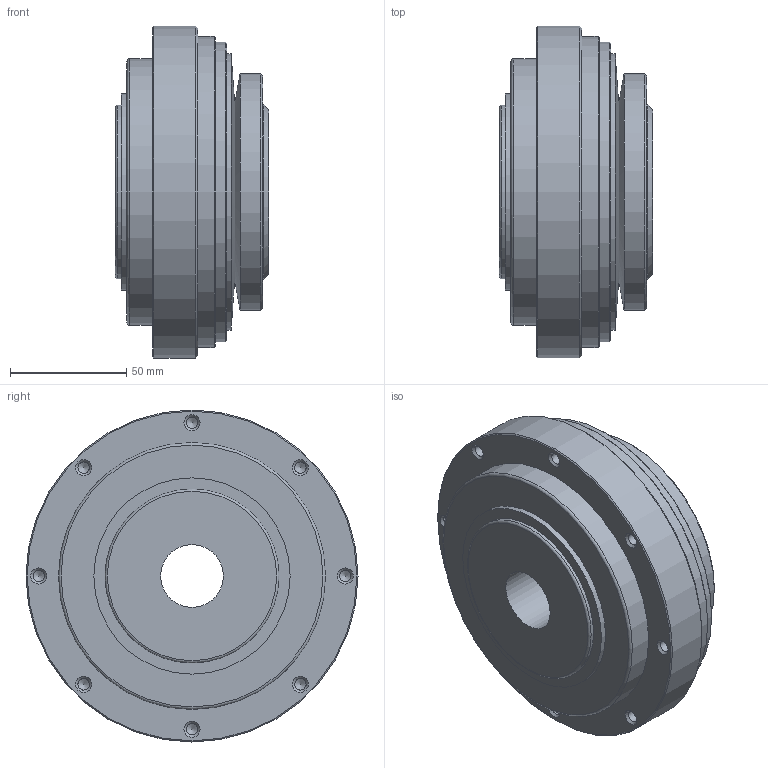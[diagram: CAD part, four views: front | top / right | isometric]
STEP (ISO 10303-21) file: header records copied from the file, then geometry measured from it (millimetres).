
FILE_DESCRIPTION(/* description */ ('Unknown'),/* implementation_level */ '2;1');
FILE_NAME(/* name */ 'SKVA-N 400',/* time_stamp */ '2025-02-05T13:43:19+01:00',/* author */ ('Unknown'),/* organization */ ('Unknown'),/* preprocessor_version */ 'ST-DEVELOPER v18.102',/* originating_system */ 'Solid Edge',/* authorisation */ 'Unknown');
FILE_SCHEMA (('AUTOMOTIVE_DESIGN {1 0 10303 214 3 1 1}'));
Length unit declared in the file: millimetre
Products named in the file (1): SKVA-N 400
Bounding box: 66 x 143 x 143 mm (x, y, z)
Volume: 719995.9 mm3; surface area: 68212.1 mm2
Topology: 1 solids, 1 shells, 64 faces, 141 edges, 88 vertices
Faces by surface type: cylinder 26, cone 25, plane 11, torus 2
Full cylindrical faces by diameter (mm): 4.917 x16, 27 x1, 75 x2, 84.5 x1, 102 x1, 115 x1, 119 x1, 129 x1, 134 x1, 143 x1
Entity records: 1792 total; most frequent: DIRECTION 258, CARTESIAN_POINT 201, FACE_BOUND 136, AXIS2_PLACEMENT_3D 129, ORIENTED_EDGE 128, EDGE_LOOP 128, VERTEX_POINT 72, EDGE_CURVE 64
